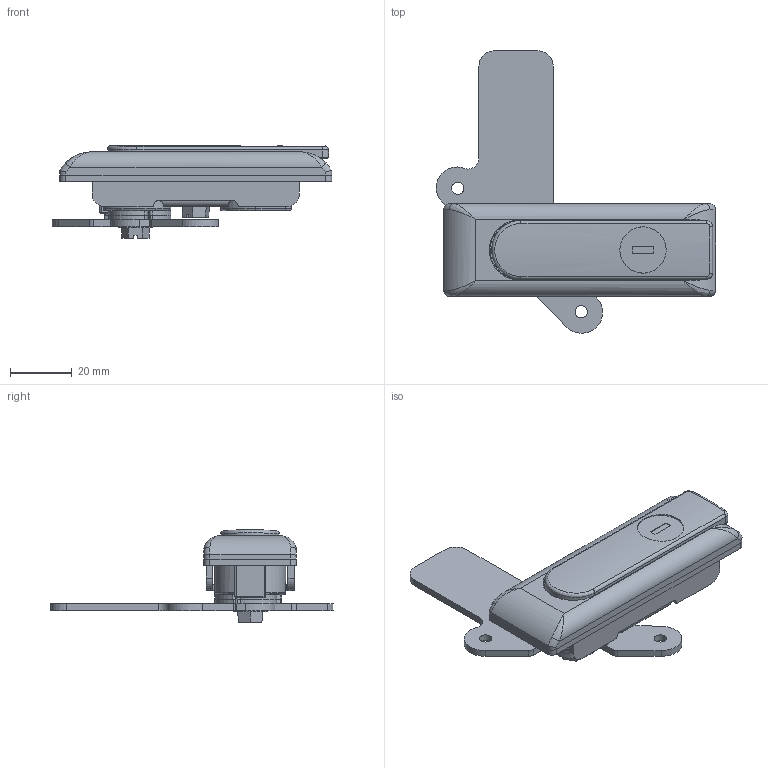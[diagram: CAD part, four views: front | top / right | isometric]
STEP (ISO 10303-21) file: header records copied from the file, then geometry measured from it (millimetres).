
FILE_DESCRIPTION(/* description */ (''),/* implementation_level */ '2;1');
FILE_NAME(/* name */ '\\NAS\db20\MS607-3\DR_MS607-3.stp',/* time_stamp */ '2017-08-01T14:00:37+09:00',/* author */ ('user'),/* organization */ (''),/* preprocessor_version */ 'ST-DEVELOPER v15.6',/* originating_system */ 'Autodesk Inventor 2015',/* authorisation */ '');
FILE_SCHEMA (('AUTOMOTIVE_DESIGN { 1 0 10303 214 3 1 1 }'));
Length unit declared in the file: millimetre
Products named in the file (8): DR_C-44; DR_MS607-3; DR_MS607-3-C; DR_MS607-3-H; DR_MS607-3-K; DR_MS607-3-SC; DR_MS607-3-W
Bounding box: 90.39 x 91.38 x 30 mm (x, y, z)
Volume: 39340.4 mm3; surface area: 30740.5 mm2
Topology: 12 solids, 12 shells, 405 faces, 1017 edges, 639 vertices
Faces by surface type: plane 185, cylinder 152, torus 32, bspline 28, sphere 6, cone 2
Full cylindrical faces by diameter (mm): 3 x2, 3.242 x1, 4 x2, 4.134 x1, 5 x3, 7 x1, 11 x3, 11.5 x2, 12 x2, 15 x2, 19 x1, 19.5 x1
Entity records: 11962 total; most frequent: CARTESIAN_POINT 3177, DIRECTION 1830, ORIENTED_EDGE 1742, EDGE_CURVE 871, AXIS2_PLACEMENT_3D 689, VERTEX_POINT 564, LINE 452, VECTOR 452
